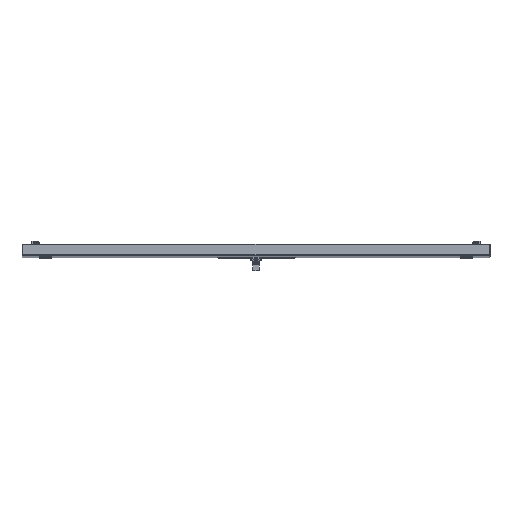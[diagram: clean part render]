
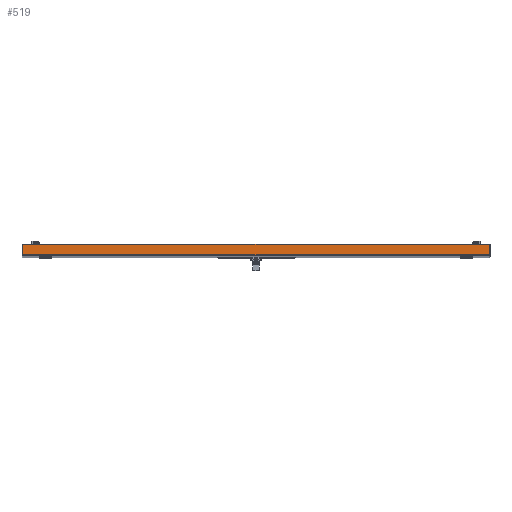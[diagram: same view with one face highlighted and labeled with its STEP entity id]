
A CAD part, top view. The second image highlights one B-rep face of the part: STEP entity #519.
In plain terms, the highlighted planar face has unit normal (0, 0, 1).
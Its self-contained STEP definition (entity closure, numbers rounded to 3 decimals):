
#519 = ADVANCED_FACE( '', ( #1113 ), #1114, .F. );
#1113 = FACE_OUTER_BOUND( '', #2492, .T. );
#1114 = PLANE( '', #2493 );
#2492 = EDGE_LOOP( '', ( #4015, #4016, #4017, #4018, #4019, #4020 ) );
#2493 = AXIS2_PLACEMENT_3D( '', #4021, #4022, #4023 );
#4015 = ORIENTED_EDGE( '', *, *, #8061, .T. );
#4016 = ORIENTED_EDGE( '', *, *, #8055, .T. );
#4017 = ORIENTED_EDGE( '', *, *, #7974, .T. );
#4018 = ORIENTED_EDGE( '', *, *, #8045, .T. );
#4019 = ORIENTED_EDGE( '', *, *, #8052, .F. );
#4020 = ORIENTED_EDGE( '', *, *, #8054, .T. );
#4021 = CARTESIAN_POINT( '', ( 411.95, 1.181, 999.338 ) );
#4022 = DIRECTION( '', ( 0., 0., -1. ) );
#4023 = DIRECTION( '', ( 0., 1., 0. ) );
#7974 = EDGE_CURVE( '', #9422, #9427, #9429, .T. );
#8045 = EDGE_CURVE( '', #9427, #9554, #9556, .T. );
#8052 = EDGE_CURVE( '', #9566, #9554, #9568, .T. );
#8054 = EDGE_CURVE( '', #9566, #9569, #9571, .T. );
#8055 = EDGE_CURVE( '', #9572, #9422, #9573, .T. );
#8061 = EDGE_CURVE( '', #9569, #9572, #9581, .T. );
#9422 = VERTEX_POINT( '', #11863 );
#9427 = VERTEX_POINT( '', #11885 );
#9429 = LINE( '', #11902, #11903 );
#9554 = VERTEX_POINT( '', #12177 );
#9556 = CIRCLE( '', #12180, 1.08 );
#9566 = VERTEX_POINT( '', #12194 );
#9568 = LINE( '', #12197, #12198 );
#9569 = VERTEX_POINT( '', #12199 );
#9571 = LINE( '', #12202, #12203 );
#9572 = VERTEX_POINT( '', #12204 );
#9573 = CIRCLE( '', #12205, 1.08 );
#9581 = LINE( '', #12234, #12235 );
#11863 = CARTESIAN_POINT( '', ( -410.372, 2.184, 999.338 ) );
#11885 = CARTESIAN_POINT( '', ( 410.372, 2.184, 999.338 ) );
#11902 = CARTESIAN_POINT( '', ( -411.95, 2.184, 999.338 ) );
#11903 = VECTOR( '', #15245, 1000. );
#12177 = CARTESIAN_POINT( '', ( 410.477, 2.22, 999.338 ) );
#12180 = AXIS2_PLACEMENT_3D( '', #15322, #15323, #15324 );
#12194 = CARTESIAN_POINT( '', ( 410.477, 20.65, 999.338 ) );
#12197 = CARTESIAN_POINT( '', ( 410.477, 1.181, 999.338 ) );
#12198 = VECTOR( '', #15333, 1000. );
#12199 = CARTESIAN_POINT( '', ( -410.477, 20.65, 999.338 ) );
#12202 = CARTESIAN_POINT( '', ( 411.95, 20.65, 999.338 ) );
#12203 = VECTOR( '', #15335, 1000. );
#12204 = CARTESIAN_POINT( '', ( -410.477, 2.22, 999.338 ) );
#12205 = AXIS2_PLACEMENT_3D( '', #15336, #15337, #15338 );
#12234 = CARTESIAN_POINT( '', ( -410.477, 1.181, 999.338 ) );
#12235 = VECTOR( '', #15340, 1000. );
#15245 = DIRECTION( '', ( 1., 0., 0. ) );
#15322 = CARTESIAN_POINT( '', ( 410.769, 1.181, 999.338 ) );
#15323 = DIRECTION( '', ( 0., 0., -1. ) );
#15324 = DIRECTION( '', ( 1., 0., 0. ) );
#15333 = DIRECTION( '', ( 0., -1., 0. ) );
#15335 = DIRECTION( '', ( -1., 0., 0. ) );
#15336 = CARTESIAN_POINT( '', ( -410.769, 1.181, 999.338 ) );
#15337 = DIRECTION( '', ( 0., 0., -1. ) );
#15338 = DIRECTION( '', ( -1., 0., 0. ) );
#15340 = DIRECTION( '', ( 0., -1., 0. ) );
